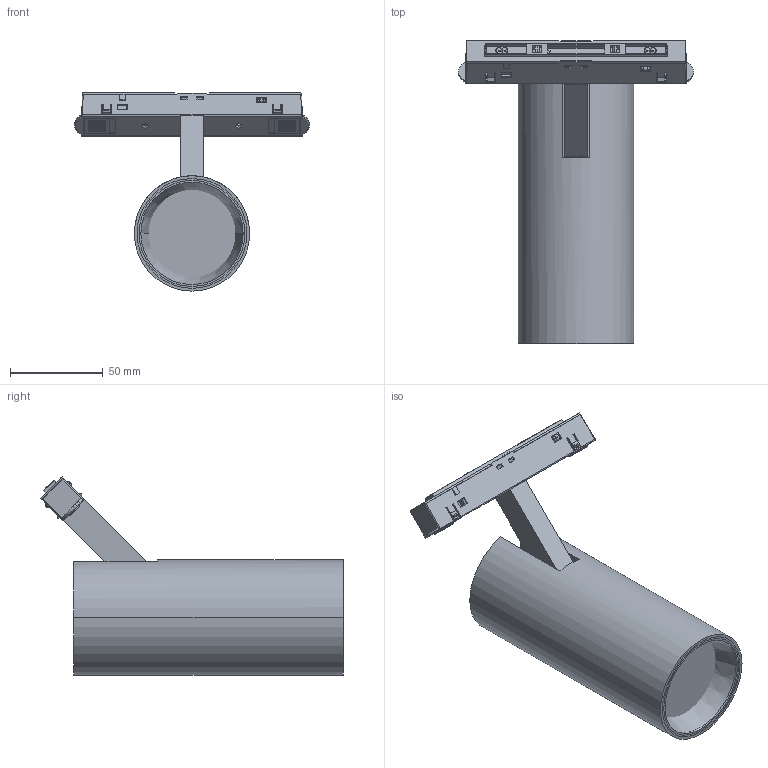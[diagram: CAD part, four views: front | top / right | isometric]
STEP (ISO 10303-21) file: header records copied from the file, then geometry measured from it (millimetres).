
FILE_DESCRIPTION((''),'2;1');
FILE_NAME('410118_ASM','2022-11-11T',('Administrator'),(''),'PRO/ENGINEER BY PARAMETRIC TECHNOLOGY CORPORATION, 2015070','PRO/ENGINEER BY PARAMETRIC TECHNOLOGY CORPORATION, 2015070','');
FILE_SCHEMA(('CONFIG_CONTROL_DESIGN','SHAPE_APPEARANCE_LAYERS_GROUPS'));
Length unit declared in the file: millimetre
Products named in the file (25): 61X170MM_DENGTONG_6; 15X25MM_BAIBI_1; LVJI_BAN____1; 50X40MM_FGUANGBEI_1; 62_WAIHUAN_1; MANIFOLD_SOLID_BREP_5140_2_1; _________________M2_5X5_1; MANIFOLD_SOLID_BREP_5136_8_1; 03_X_T_1; MANIFOLD_SOLID_BREP_5132_2_1; MANIFOLD_SOLID_BREP_5139_2_1; MANIFOLD_SOLID_BREP_5135_2_1; MANIFOLD_SOLID_BREP_53625_1; MANIFOLD_SOLID_BREP_45179_1; 08-22-W1_37_ASM_ASM_1_ASM_ASM; MANIFOLD_SOLID_BREP_5138_2_1; ________________M3X6_1; MANIFOLD_SOLID_BREP_5134_2_1; 08-20-PC1_6_1; MANIFOLD_SOLID_BREP_5137_2_1; MANIFOLD_SOLID_BREP_5133_2_1; 20__________________________GN-_ASM; 20_GN-CX01-7-1_ASM_1_ASM; 62X170MM__ASM_8_ASM; 410118_ASM
Assembly tree (26 placements, depth 6):
  410118_ASM
    62X170MM__ASM_8_ASM
      61X170MM_DENGTONG_6
      15X25MM_BAIBI_1
      LVJI_BAN____1
      50X40MM_FGUANGBEI_1
      62_WAIHUAN_1
      20_GN-CX01-7-1_ASM_1_ASM
        20__________________________GN-_ASM
          MANIFOLD_SOLID_BREP_5140_2_1
          _________________M2_5X5_1  x2
          MANIFOLD_SOLID_BREP_5136_8_1
          03_X_T_1
          MANIFOLD_SOLID_BREP_5132_2_1
          MANIFOLD_SOLID_BREP_5139_2_1
          MANIFOLD_SOLID_BREP_5135_2_1
          08-22-W1_37_ASM_ASM_1_ASM_ASM
            MANIFOLD_SOLID_BREP_53625_1
            MANIFOLD_SOLID_BREP_45179_1
          MANIFOLD_SOLID_BREP_5138_2_1
          ________________M3X6_1  x2
          MANIFOLD_SOLID_BREP_5134_2_1
          08-20-PC1_6_1
          MANIFOLD_SOLID_BREP_5137_2_1
          MANIFOLD_SOLID_BREP_5133_2_1
Bounding box: 126.5 x 162.78 x 106.57 mm (x, y, z)
Volume: 385973.4 mm3; surface area: 89084.8 mm2
Topology: 22 solids, 22 shells, 1527 faces, 4081 edges, 2646 vertices
Faces by surface type: plane 885, cylinder 381, bspline 125, cone 78, torus 58
Entity records: 53303 total; most frequent: CARTESIAN_POINT 15941, ORIENTED_EDGE 7950, DIRECTION 7280, EDGE_CURVE 3975, VECTOR 2656, LINE 2656, VERTEX_POINT 2587, AXIS2_PLACEMENT_3D 2312
